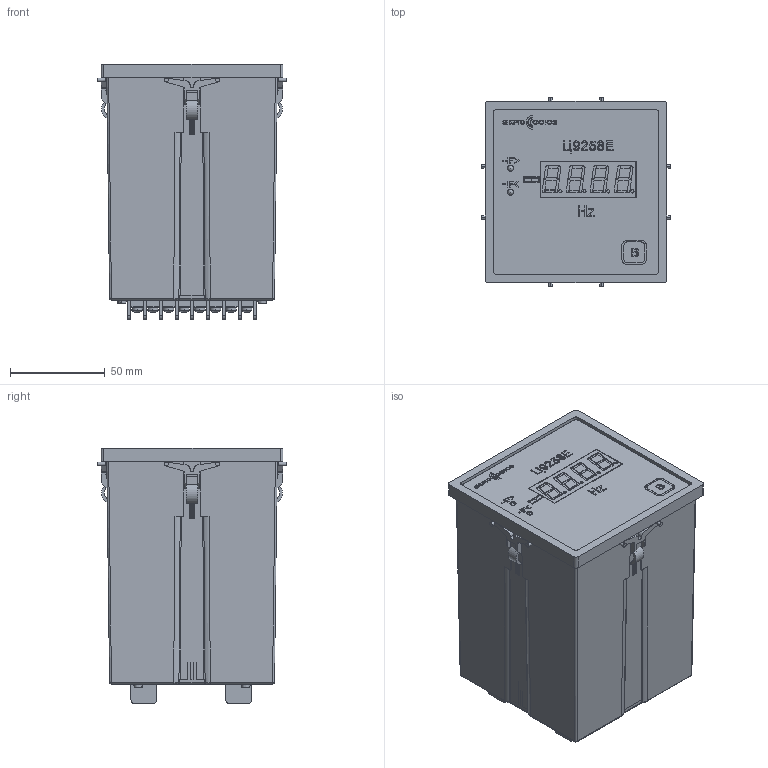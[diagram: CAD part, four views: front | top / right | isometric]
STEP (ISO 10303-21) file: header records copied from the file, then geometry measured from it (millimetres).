
FILE_DESCRIPTION (( 'STEP AP214' ), '1' );
FILE_NAME ('c9258e_98x98x138.STEP', '2025-01-16T06:01:29', ( '' ), ( '' ), 'SwSTEP 2.0', 'SolidWorks 2021', '' );
FILE_SCHEMA (( 'AUTOMOTIVE_DESIGN' ));
Length unit declared in the file: millimetre
Products named in the file (17): Êîïèÿ front-panel-e^sborka-c9258e_step; c9258e_98x98x138; Ñêîáà DG35; 鼁闉罻 DG35; ramka-e-body; Êîïèÿ back-label-e^sborka-c9258e_step; øàéáà DG35; round led(no glow)_step; îñíîâàíèå DG35; 齕鍕趌elc_98x98x138; body_elc_98x98x138(v2.0); Êîïèÿ sborka-FYQ-5641^sborka-c9258e_step; FYQ-5641; pan head cross recess screw_iso_ISO 7045 - M3 x 4 - Z --- 4N; Äåòàëü1^Êîïèÿ sborka-FYQ-5641_sborka-c9258e_step; slotted cheese head screw_iso_ISO 1207 - M2.5 x 10 - 10N; green-led
Assembly tree (45 placements, depth 3):
  c9258e_98x98x138
    body_elc_98x98x138(v2.0)
    ramka-e-body
    Êîïèÿ front-panel-e^sborka-c9258e_step
    Êîïèÿ sborka-FYQ-5641^sborka-c9258e_step
      FYQ-5641
    round led(no glow)_step  x2
    green-led  x2
    齕鍕趌elc_98x98x138  x4
    鼁闉罻 DG35  x2
      îñíîâàíèå DG35
      Ñêîáà DG35
      pan head cross recess screw_iso_ISO 7045 - M3 x 4 - Z --- 4N
      øàéáà DG35
    slotted cheese head screw_iso_ISO 1207 - M2.5 x 10 - 10N  x4
    Êîïèÿ back-label-e^sborka-c9258e_step
  Äåòàëü1^Êîïèÿ sborka-FYQ-5641_sborka-c9258e_step
Bounding box: 99.97 x 99.97 x 134.65 mm (x, y, z)
Volume: 126553.3 mm3; surface area: 173684.9 mm2
Topology: 141 solids, 141 shells, 4838 faces, 11963 edges, 7466 vertices
Faces by surface type: plane 2653, bspline 961, cylinder 858, cone 184, sphere 110, torus 72
Entity records: 92415 total; most frequent: CARTESIAN_POINT 32262, ORIENTED_EDGE 10796, DIRECTION 8999, EDGE_CURVE 5398, LINE 3813, VECTOR 3813, VERTEX_POINT 3550, AXIS2_PLACEMENT_3D 2593
